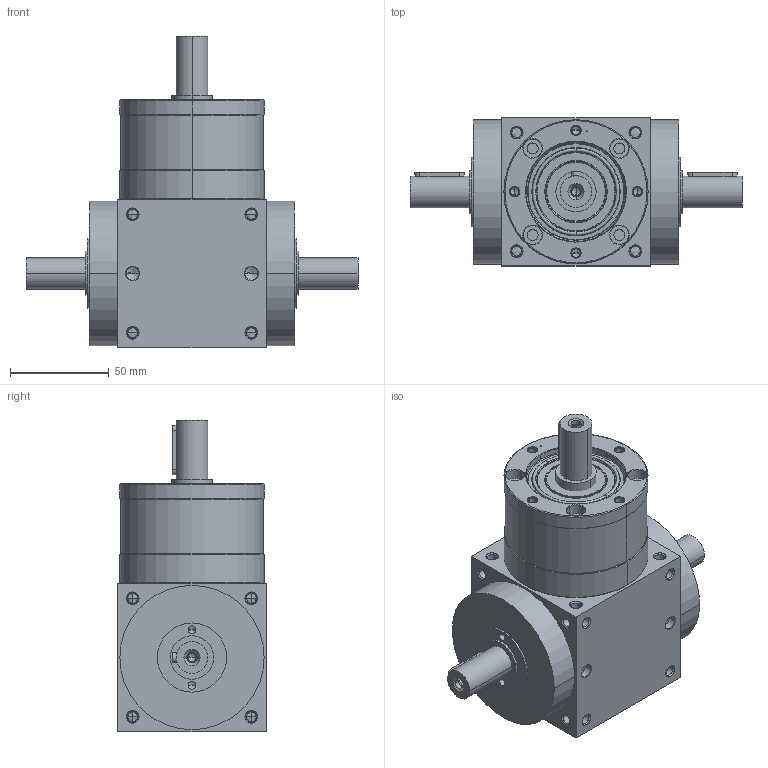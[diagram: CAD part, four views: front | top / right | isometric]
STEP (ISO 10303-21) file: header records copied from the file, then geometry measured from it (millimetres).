
FILE_DESCRIPTION((''),'2;1');
FILE_NAME('AT075L-1_ASM','2008-12-31T',('d00176'),(''),'PRO/ENGINEER BY PARAMETRIC TECHNOLOGY CORPORATION, 2006170','PRO/ENGINEER BY PARAMETRIC TECHNOLOGY CORPORATION, 2006170','');
FILE_SCHEMA(('CONFIG_CONTROL_DESIGN'));
Length unit declared in the file: millimetre
Products named in the file (4): ATL-HOUSING-1-3; P1801300001; 22400071003; AT075L-1_ASM
Assembly tree (3 placements, depth 2):
  AT075L-1_ASM
    ATL-HOUSING-1-3
    P1801300001
    22400071003
Bounding box: 168 x 75 x 157.5 mm (x, y, z)
Volume: 693458.4 mm3; surface area: 97664.3 mm2
Topology: 4 solids, 35 shells, 575 faces, 1451 edges, 862 vertices
Faces by surface type: cylinder 268, cone 190, plane 77, torus 36, bspline 4
Entity records: 17615 total; most frequent: CARTESIAN_POINT 3918, DIRECTION 3051, ORIENTED_EDGE 2626, EDGE_CURVE 1375, AXIS2_PLACEMENT_3D 1278, VERTEX_POINT 862, CIRCLE 696, EDGE_LOOP 673
